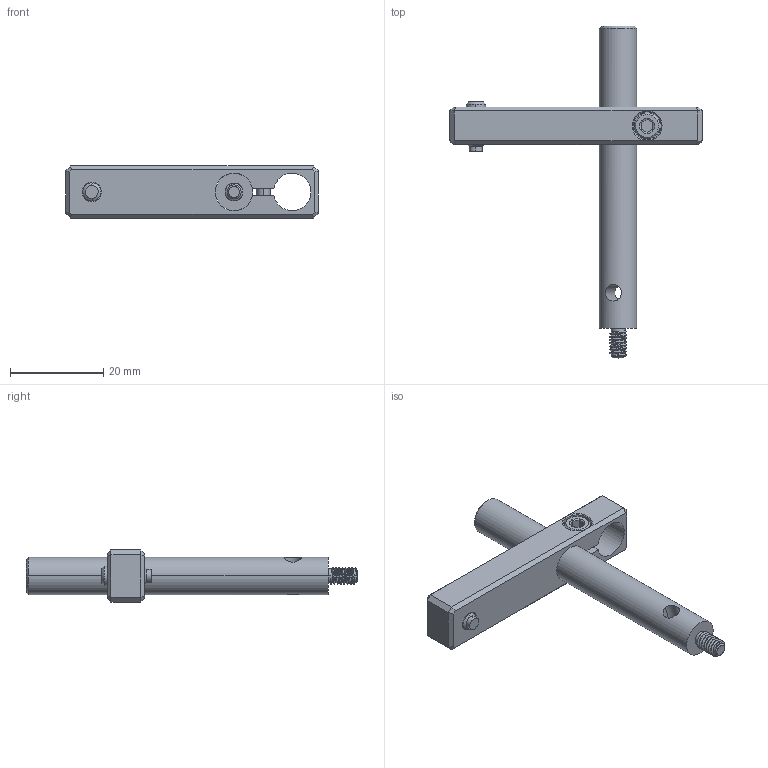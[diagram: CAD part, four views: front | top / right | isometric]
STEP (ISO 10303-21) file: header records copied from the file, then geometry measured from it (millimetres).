
FILE_DESCRIPTION((''),'2;1');
FILE_NAME('MPV-76_ASM','2021-10-28T',('si'),(''),'CREO PARAMETRIC BY PTC INC, 2017300','CREO PARAMETRIC BY PTC INC, 2017300','');
FILE_SCHEMA(('CONFIG_CONTROL_DESIGN'));
Length unit declared in the file: millimetre
Products named in the file (5): PRK2-A65_A1; PRK2-A65_A2; M3X8_HM; M4X10_HSP; MPV-76_ASM
Assembly tree (4 placements, depth 2):
  MPV-76_ASM
    PRK2-A65_A1
    PRK2-A65_A2
    M3X8_HM
    M4X10_HSP
Bounding box: 54.1 x 71.12 x 11.2 mm (x, y, z)
Volume: 7116.8 mm3; surface area: 4808.5 mm2
Topology: 4 solids, 4 shells, 170 faces, 435 edges, 276 vertices
Faces by surface type: cylinder 70, plane 52, bspline 26, cone 22
Entity records: 9208 total; most frequent: CARTESIAN_POINT 5292, ORIENTED_EDGE 866, DIRECTION 654, EDGE_CURVE 433, VERTEX_POINT 276, AXIS2_PLACEMENT_3D 223, VECTOR 208, LINE 208
